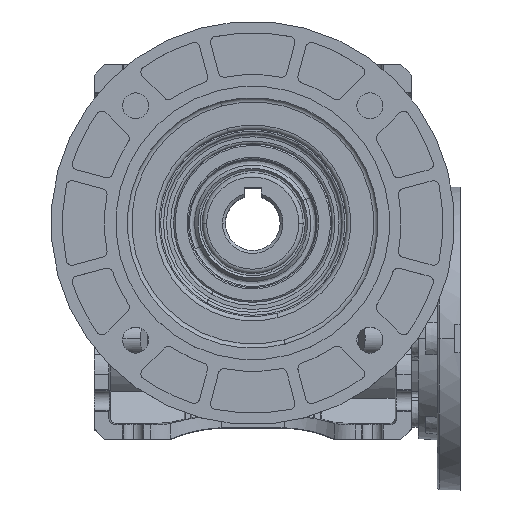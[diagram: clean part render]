
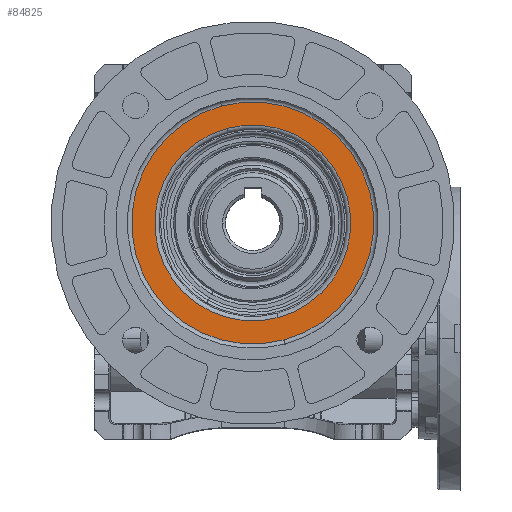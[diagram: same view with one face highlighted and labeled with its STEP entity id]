
A CAD part, top view. The second image highlights one B-rep face of the part: STEP entity #84825.
In plain terms, the highlighted planar face has unit normal (0, 0, 1).
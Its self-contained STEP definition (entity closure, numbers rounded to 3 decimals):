
#515 = AXIS2_PLACEMENT_3D ( 'NONE', #34348, #68264, #75491 ) ;
#1110 = ORIENTED_EDGE ( 'NONE', *, *, #97373, .T. ) ;
#1845 = DIRECTION ( 'NONE',  ( 0., 0., -1. ) ) ;
#2905 = CIRCLE ( 'NONE', #68470, 42. ) ;
#5610 = AXIS2_PLACEMENT_3D ( 'NONE', #9540, #42783, #50015 ) ;
#9540 = CARTESIAN_POINT ( 'NONE',  ( 0., 0., 81. ) ) ;
#12550 = DIRECTION ( 'NONE',  ( 0., 0., -1. ) ) ;
#14661 = DIRECTION ( 'NONE',  ( 0., 0., -1. ) ) ;
#15726 = ORIENTED_EDGE ( 'NONE', *, *, #68013, .F. ) ;
#16854 = VERTEX_POINT ( 'NONE', #40939 ) ;
#20337 = DIRECTION ( 'NONE',  ( 0.259, -0.966, 0. ) ) ;
#27298 = DIRECTION ( 'NONE',  ( 0.259, -0.966, 0. ) ) ;
#33641 = EDGE_CURVE ( 'NONE', #57525, #48040, #96188, .T. ) ;
#34348 = CARTESIAN_POINT ( 'NONE',  ( 0., 0., 81. ) ) ;
#37930 = EDGE_CURVE ( 'NONE', #16854, #101303, #100568, .T. ) ;
#40939 = CARTESIAN_POINT ( 'NONE',  ( 8.8, -32.841, 81. ) ) ;
#40956 = CIRCLE ( 'NONE', #5610, 34. ) ;
#42783 = DIRECTION ( 'NONE',  ( 0., 0., -1. ) ) ;
#48040 = VERTEX_POINT ( 'NONE', #62015 ) ;
#50015 = DIRECTION ( 'NONE',  ( 0.259, -0.966, 0. ) ) ;
#54875 = CARTESIAN_POINT ( 'NONE',  ( -8.8, 32.841, 81. ) ) ;
#55169 = CARTESIAN_POINT ( 'NONE',  ( -32.841, -8.8, 81. ) ) ;
#57525 = VERTEX_POINT ( 'NONE', #81710 ) ;
#62015 = CARTESIAN_POINT ( 'NONE',  ( 10.87, -40.569, 81. ) ) ;
#62514 = CARTESIAN_POINT ( 'NONE',  ( 0., 0., 81. ) ) ;
#68013 = EDGE_CURVE ( 'NONE', #48040, #57525, #2905, .T. ) ;
#68264 = DIRECTION ( 'NONE',  ( 0., 0., -1. ) ) ;
#68440 = CARTESIAN_POINT ( 'NONE',  ( 0., 0., 81. ) ) ;
#68470 = AXIS2_PLACEMENT_3D ( 'NONE', #62514, #12550, #20337 ) ;
#73502 = FACE_BOUND ( 'NONE', #108988, .T. ) ;
#75491 = DIRECTION ( 'NONE',  ( 0.259, -0.966, 0. ) ) ;
#77557 = AXIS2_PLACEMENT_3D ( 'NONE', #68440, #1845, #27298 ) ;
#80202 = FACE_OUTER_BOUND ( 'NONE', #108138, .T. ) ;
#81710 = CARTESIAN_POINT ( 'NONE',  ( -10.87, 40.569, 81. ) ) ;
#84825 = ADVANCED_FACE ( 'NONE', ( #80202, #73502 ), #106796, .F. ) ;
#86320 = ORIENTED_EDGE ( 'NONE', *, *, #33641, .F. ) ;
#91318 = ORIENTED_EDGE ( 'NONE', *, *, #37930, .T. ) ;
#96188 = CIRCLE ( 'NONE', #515, 42. ) ;
#97373 = EDGE_CURVE ( 'NONE', #101303, #16854, #40956, .T. ) ;
#100568 = CIRCLE ( 'NONE', #77557, 34. ) ;
#101303 = VERTEX_POINT ( 'NONE', #54875 ) ;
#103912 = AXIS2_PLACEMENT_3D ( 'NONE', #55169, #14661, #105700 ) ;
#105700 = DIRECTION ( 'NONE',  ( 0.259, -0.966, 0. ) ) ;
#106796 = PLANE ( 'NONE',  #103912 ) ;
#108138 = EDGE_LOOP ( 'NONE', ( #15726, #86320 ) ) ;
#108988 = EDGE_LOOP ( 'NONE', ( #91318, #1110 ) ) ;
